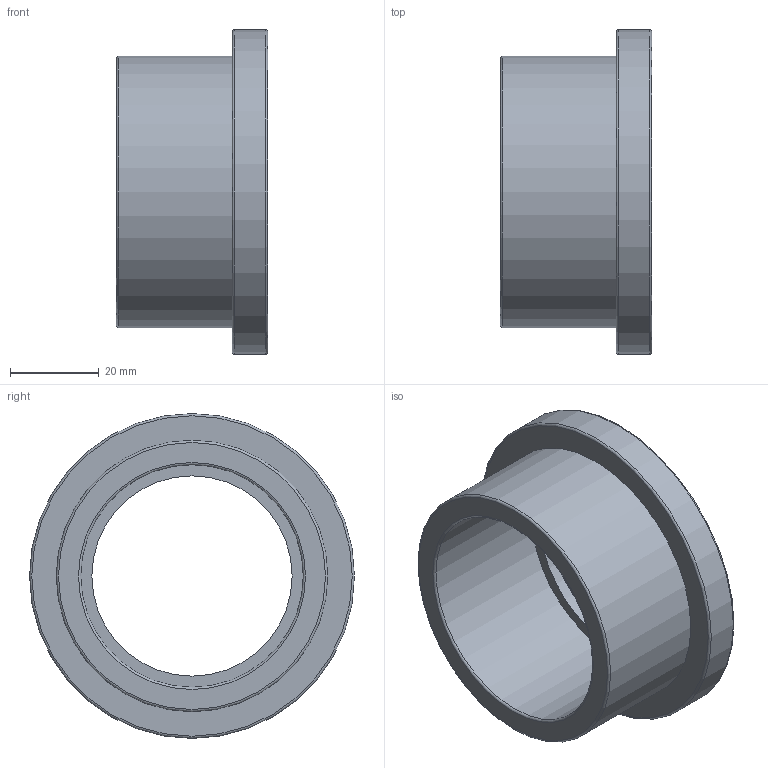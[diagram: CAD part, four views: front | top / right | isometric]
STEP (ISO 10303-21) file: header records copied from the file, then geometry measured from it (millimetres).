
FILE_DESCRIPTION(/* description */ ('PLASSON FLANGE FLAT AD.-CEM 50'),/* implementation_level */ '2;1');
FILE_NAME(/* name */ 'C:\Dropbox\KIMPROJECTS-Inventor\99-16-3568-Processing\PVC Catalog 2017\26_09_18\055100\055100050.ipt.stp',/* time_stamp */ '2018-09-27T11:50:46+03:00',/* author */ ('KIM'),/* organization */ (''),/* preprocessor_version */ 'ST-DEVELOPER v15.6',/* originating_system */ 'Autodesk Inventor 2015',/* authorisation */ '');
FILE_SCHEMA (('AUTOMOTIVE_DESIGN { 1 0 10303 214 3 1 1 }'));
Length unit declared in the file: millimetre
Products named in the file (1): 055100050
Bounding box: 34 x 73 x 73 mm (x, y, z)
Volume: 43776.7 mm3; surface area: 17097 mm2
Topology: 1 solids, 1 shells, 13 faces, 22 edges, 13 vertices
Faces by surface type: torus 5, cylinder 4, plane 4
Full cylindrical faces by diameter (mm): 45 x1, 50 x1, 61 x1, 73 x1
Entity records: 292 total; most frequent: DIRECTION 54, CARTESIAN_POINT 40, AXIS2_PLACEMENT_3D 27, EDGE_LOOP 26, ORIENTED_EDGE 26, FACE_BOUND 13, FACE_OUTER_BOUND 13, CIRCLE 13
